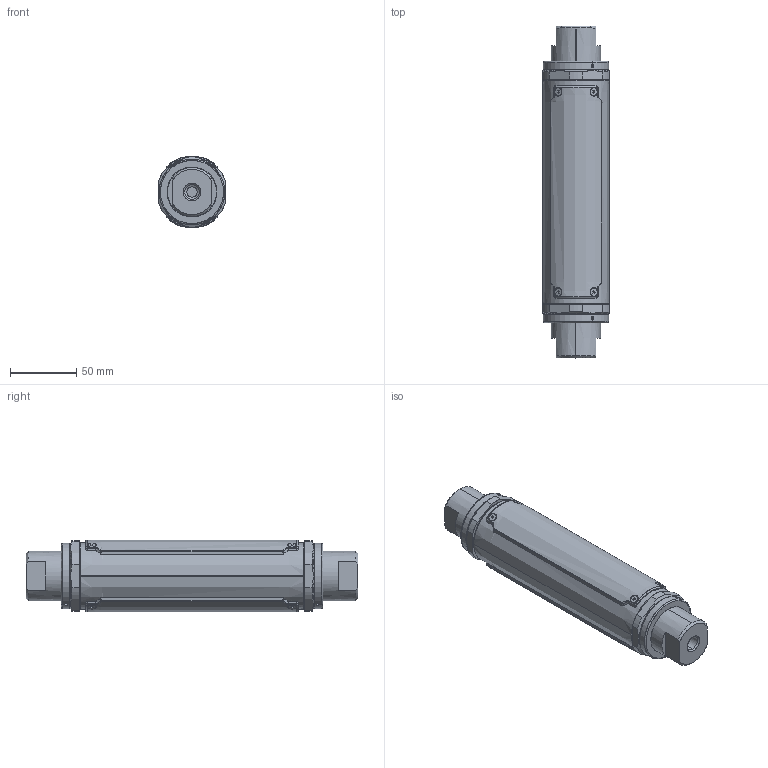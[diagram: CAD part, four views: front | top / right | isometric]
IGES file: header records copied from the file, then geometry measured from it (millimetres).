
Start section: SolidWorks IGES file using analytic representation for surfaces
Global section: file name: G:\Engineering\CAD MODELS FOR SALES\CAD MODEL STORAGE\GT1600\CUSTOMER FILES\IGES\1644-D6-1-AA-0-0.IGS; native system: SolidWorks 2020; preprocessor: SolidWorks 2020; author: CRaksin; date: 220912.101309; units: inch
Bounding box: 50 x 250 x 53.99 mm (x, y, z)
Surface area: 81659.3 mm2 (no closed solid volume)
Topology: 0 solids, 0 shells, 721 faces, 9130 edges, 9107 vertices
Faces by surface type: bspline 410, revolution 311
